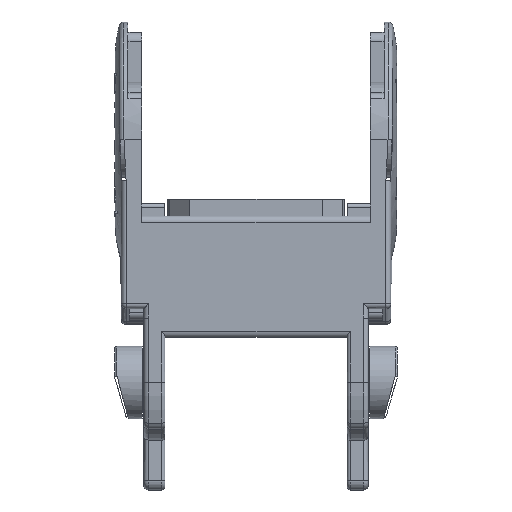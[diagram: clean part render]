
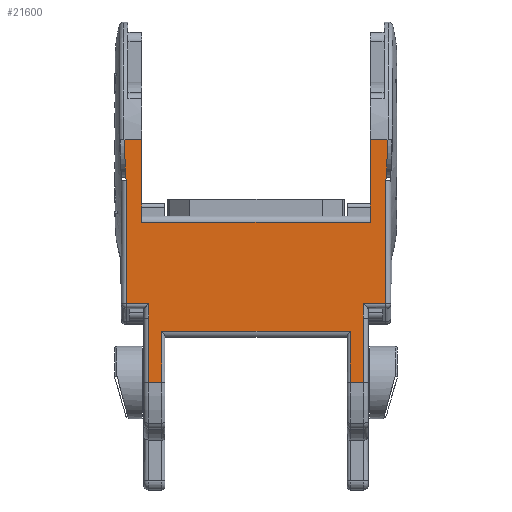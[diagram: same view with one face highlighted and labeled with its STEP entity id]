
A CAD part, top view. The second image highlights one B-rep face of the part: STEP entity #21600.
In plain terms, the highlighted planar face has unit normal (0, 0, 1).
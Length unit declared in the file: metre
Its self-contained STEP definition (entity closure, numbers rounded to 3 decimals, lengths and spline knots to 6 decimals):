
#6048=CARTESIAN_POINT('',(-0.017499,0.009026,0.048344));
#6049=VERTEX_POINT('',#6048);
#6052=CARTESIAN_POINT('',(-0.014123,0.009026,0.048344));
#6053=DIRECTION('',(-1.,0.,0.));
#6054=VECTOR('',#6053,1.);
#6055=LINE('',#6052,#6054);
#6056=CARTESIAN_POINT('',(-0.016023,0.009026,0.048344));
#6057=VERTEX_POINT('',#6056);
#6058=EDGE_CURVE('',#6057,#6049,#6055,.T.);
#7252=CARTESIAN_POINT('',(-0.017323,-0.004507,0.048344));
#7253=VERTEX_POINT('',#7252);
#7256=CARTESIAN_POINT('',(-0.017323,-0.000974,0.048344));
#7257=DIRECTION('',(0.,-1.,0.));
#7258=VECTOR('',#7257,1.);
#7259=LINE('',#7256,#7258);
#7260=CARTESIAN_POINT('',(-0.017323,0.005678,0.048344));
#7261=VERTEX_POINT('',#7260);
#7262=EDGE_CURVE('',#7261,#7253,#7259,.T.);
#7335=CARTESIAN_POINT('',(-0.015473,-0.004507,0.048344));
#7336=VERTEX_POINT('',#7335);
#7339=CARTESIAN_POINT('',(-0.015473,-0.004507,0.048344));
#7340=DIRECTION('',(1.,0.,0.));
#7341=VECTOR('',#7340,1.);
#7342=LINE('',#7339,#7341);
#7343=EDGE_CURVE('',#7253,#7336,#7342,.T.);
#7368=CARTESIAN_POINT('',(-0.015473,-0.005676,0.048344));
#7369=VERTEX_POINT('',#7368);
#7374=CARTESIAN_POINT('',(-0.015473,-0.005676,0.048344));
#7375=DIRECTION('',(0.,1.,0.));
#7376=VECTOR('',#7375,1.);
#7377=LINE('',#7374,#7376);
#7378=EDGE_CURVE('',#7369,#7336,#7377,.T.);
#7418=CARTESIAN_POINT('',(-0.014373,-0.010974,0.048344));
#7419=VERTEX_POINT('',#7418);
#7422=CARTESIAN_POINT('',(-0.014123,-0.010974,0.048344));
#7423=DIRECTION('',(-1.,0.,0.));
#7424=VECTOR('',#7423,1.);
#7425=LINE('',#7422,#7424);
#7426=CARTESIAN_POINT('',(-0.015473,-0.010974,0.048344));
#7427=VERTEX_POINT('',#7426);
#7428=EDGE_CURVE('',#7419,#7427,#7425,.T.);
#7982=CARTESIAN_POINT('',(-0.015473,-0.010974,0.048344));
#7983=DIRECTION('',(0.,1.,0.));
#7984=VECTOR('',#7983,1.);
#7985=LINE('',#7982,#7984);
#7986=EDGE_CURVE('',#7427,#7369,#7985,.T.);
#10271=CARTESIAN_POINT('',(-0.014373,-0.006774,0.048344));
#10272=VERTEX_POINT('',#10271);
#10275=CARTESIAN_POINT('',(-0.014373,-0.006774,0.048344));
#10276=DIRECTION('',(0.,-1.,0.));
#10277=VECTOR('',#10276,1.);
#10278=LINE('',#10275,#10277);
#10279=EDGE_CURVE('',#10272,#7419,#10278,.T.);
#10314=CARTESIAN_POINT('',(0.001127,-0.006774,0.048344));
#10315=VERTEX_POINT('',#10314);
#10318=CARTESIAN_POINT('',(-0.014123,-0.006774,0.048344));
#10319=DIRECTION('',(-1.,0.,0.));
#10320=VECTOR('',#10319,1.);
#10321=LINE('',#10318,#10320);
#10322=EDGE_CURVE('',#10315,#10272,#10321,.T.);
#10357=CARTESIAN_POINT('',(0.001127,-0.010974,0.048344));
#10358=VERTEX_POINT('',#10357);
#10361=CARTESIAN_POINT('',(0.001127,-0.000974,0.048344));
#10362=DIRECTION('',(0.,-1.,0.));
#10363=VECTOR('',#10362,1.);
#10364=LINE('',#10361,#10363);
#10365=EDGE_CURVE('',#10315,#10358,#10364,.T.);
#10637=CARTESIAN_POINT('',(0.002727,-0.010974,0.048344));
#10638=DIRECTION('',(-1.,0.,0.));
#10639=VECTOR('',#10638,1.);
#10640=LINE('',#10637,#10639);
#10641=CARTESIAN_POINT('',(0.002227,-0.010974,0.048344));
#10642=VERTEX_POINT('',#10641);
#10643=EDGE_CURVE('',#10642,#10358,#10640,.T.);
#14105=CARTESIAN_POINT('',(0.002227,-0.005676,0.048344));
#14106=VERTEX_POINT('',#14105);
#14109=CARTESIAN_POINT('',(0.002227,-0.005676,0.048344));
#14110=DIRECTION('',(0.,-1.,0.));
#14111=VECTOR('',#14110,1.);
#14112=LINE('',#14109,#14111);
#14113=EDGE_CURVE('',#14106,#10642,#14112,.T.);
#14183=CARTESIAN_POINT('',(0.002227,-0.004507,0.048344));
#14184=VERTEX_POINT('',#14183);
#14187=CARTESIAN_POINT('',(0.002227,-0.004907,0.048344));
#14188=DIRECTION('',(0.,-1.,0.));
#14189=VECTOR('',#14188,1.);
#14190=LINE('',#14187,#14189);
#14191=EDGE_CURVE('',#14184,#14106,#14190,.T.);
#14215=CARTESIAN_POINT('',(0.004077,-0.004507,0.048344));
#14216=VERTEX_POINT('',#14215);
#14219=CARTESIAN_POINT('',(-0.014123,-0.004507,0.048344));
#14220=DIRECTION('',(1.,0.,0.));
#14221=VECTOR('',#14220,1.);
#14222=LINE('',#14219,#14221);
#14223=EDGE_CURVE('',#14184,#14216,#14222,.T.);
#14268=CARTESIAN_POINT('',(0.004077,0.006813,0.048344));
#14269=DIRECTION('',(0.,-1.,0.));
#14270=VECTOR('',#14269,1.);
#14271=LINE('',#14268,#14270);
#14272=CARTESIAN_POINT('',(0.004077,0.005678,0.048344));
#14273=VERTEX_POINT('',#14272);
#14274=EDGE_CURVE('',#14273,#14216,#14271,.T.);
#20801=CARTESIAN_POINT('',(0.004253,0.009026,0.048344));
#20802=VERTEX_POINT('',#20801);
#21065=CARTESIAN_POINT('',(0.002777,0.009026,0.048344));
#21066=VERTEX_POINT('',#21065);
#21069=CARTESIAN_POINT('',(0.004477,0.009026,0.048344));
#21070=DIRECTION('',(-1.,0.,0.));
#21071=VECTOR('',#21070,1.);
#21072=LINE('',#21069,#21071);
#21073=EDGE_CURVE('',#20802,#21066,#21072,.T.);
#21107=CARTESIAN_POINT('',(0.002777,0.002226,0.048344));
#21108=VERTEX_POINT('',#21107);
#21113=CARTESIAN_POINT('',(0.002777,0.003776,0.048344));
#21114=DIRECTION('',(0.,1.,0.));
#21115=VECTOR('',#21114,1.);
#21116=LINE('',#21113,#21115);
#21117=EDGE_CURVE('',#21108,#21066,#21116,.T.);
#21471=CARTESIAN_POINT('',(-0.016023,0.009026,0.048344));
#21472=DIRECTION('',(0.,-1.,0.));
#21473=VECTOR('',#21472,1.);
#21474=LINE('',#21471,#21473);
#21475=CARTESIAN_POINT('',(-0.016023,0.002226,0.048344));
#21476=VERTEX_POINT('',#21475);
#21477=EDGE_CURVE('',#6057,#21476,#21474,.T.);
#21544=CARTESIAN_POINT('',(-0.014123,0.002226,0.048344));
#21545=DIRECTION('',(-1.,0.,0.));
#21546=VECTOR('',#21545,1.);
#21547=LINE('',#21544,#21546);
#21548=EDGE_CURVE('',#21108,#21476,#21547,.T.);
#21563=CARTESIAN_POINT('',(-0.014123,-0.000974,0.048344));
#21564=DIRECTION('',(0.,0.,-1.));
#21565=DIRECTION('',(1.,0.,0.));
#21566=AXIS2_PLACEMENT_3D('',#21563,#21564,#21565);
#21567=PLANE('',#21566);
#21568=ORIENTED_EDGE('',*,*,#21548,.T.);
#21569=ORIENTED_EDGE('',*,*,#21477,.F.);
#21570=ORIENTED_EDGE('',*,*,#6058,.T.);
#21571=CARTESIAN_POINT('',(-0.017499,0.009026,0.048344));
#21572=CARTESIAN_POINT('',(-0.017427,0.006835,0.048344));
#21573=CARTESIAN_POINT('',(-0.017323,0.005678,0.048344));
#21574=B_SPLINE_CURVE_WITH_KNOTS('',2,(#21571,#21572,#21573),.UNSPECIFIED.,.F.,.F.,(3,3),(0.,1.),.UNSPECIFIED.);
#21575=EDGE_CURVE('',#6049,#7261,#21574,.T.);
#21576=ORIENTED_EDGE('',*,*,#21575,.T.);
#21577=ORIENTED_EDGE('',*,*,#7262,.T.);
#21578=ORIENTED_EDGE('',*,*,#7343,.T.);
#21579=ORIENTED_EDGE('',*,*,#7378,.F.);
#21580=ORIENTED_EDGE('',*,*,#7986,.F.);
#21581=ORIENTED_EDGE('',*,*,#7428,.F.);
#21582=ORIENTED_EDGE('',*,*,#10279,.F.);
#21583=ORIENTED_EDGE('',*,*,#10322,.F.);
#21584=ORIENTED_EDGE('',*,*,#10365,.T.);
#21585=ORIENTED_EDGE('',*,*,#10643,.F.);
#21586=ORIENTED_EDGE('',*,*,#14113,.F.);
#21587=ORIENTED_EDGE('',*,*,#14191,.F.);
#21588=ORIENTED_EDGE('',*,*,#14223,.T.);
#21589=ORIENTED_EDGE('',*,*,#14274,.F.);
#21590=CARTESIAN_POINT('',(0.004077,0.005678,0.048344));
#21591=CARTESIAN_POINT('',(0.004181,0.006835,0.048344));
#21592=CARTESIAN_POINT('',(0.004253,0.009026,0.048344));
#21593=B_SPLINE_CURVE_WITH_KNOTS('',2,(#21590,#21591,#21592),.UNSPECIFIED.,.F.,.F.,(3,3),(0.,1.),.UNSPECIFIED.);
#21594=EDGE_CURVE('',#14273,#20802,#21593,.T.);
#21595=ORIENTED_EDGE('',*,*,#21594,.T.);
#21596=ORIENTED_EDGE('',*,*,#21073,.T.);
#21597=ORIENTED_EDGE('',*,*,#21117,.F.);
#21598=EDGE_LOOP('',(#21568,#21569,#21570,#21576,#21577,#21578,#21579,#21580,#21581,#21582,#21583,#21584,#21585,#21586,#21587,#21588,#21589,#21595,#21596,#21597));
#21599=FACE_BOUND('',#21598,.T.);
#21600=ADVANCED_FACE('',(#21599),#21567,.F.);
